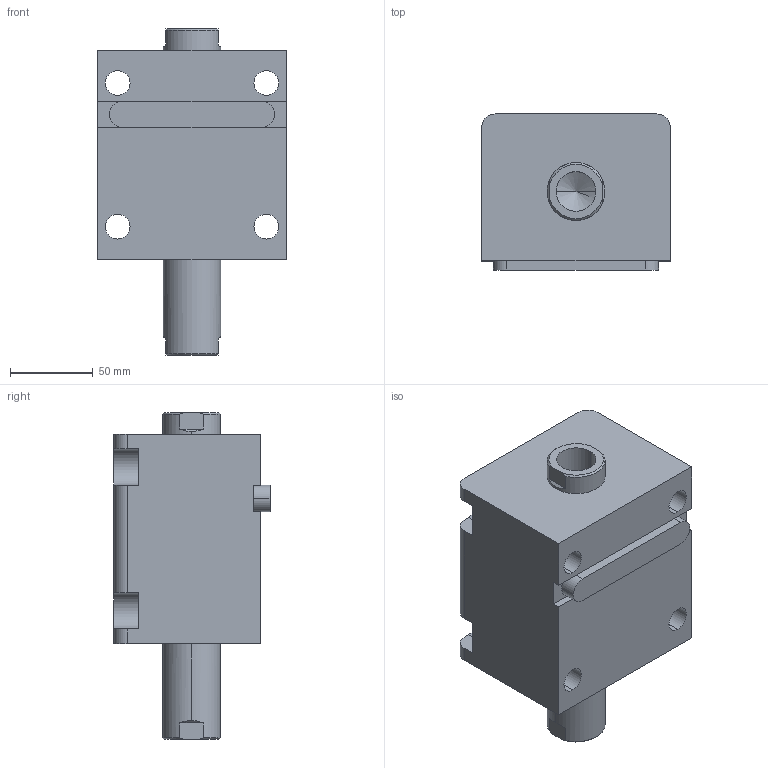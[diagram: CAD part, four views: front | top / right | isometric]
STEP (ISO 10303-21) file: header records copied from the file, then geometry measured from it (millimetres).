
FILE_DESCRIPTION (( 'STEP AP203' ), '1' );
FILE_NAME ('HTB-LW63-45N.STEP', '2019-10-09T08:26:23', ( '微软用户' ), ( '微软中国' ), 'SwSTEP 2.0', 'SolidWorks 2012', '' );
FILE_SCHEMA (( 'CONFIG_CONTROL_DESIGN' ));
Length unit declared in the file: millimetre
Products named in the file (4): HTB-LW63-45N; HTB-LA63-瑩; HTB-LW63-45N活塞杆; HTB-LW63-45掛极
Assembly tree (3 placements, depth 2):
  HTB-LW63-45N
    HTB-LW63-45掛极
    HTB-LW63-45N活塞杆
    HTB-LA63-瑩
Bounding box: 114 x 94.5 x 198 mm (x, y, z)
Volume: 1145341.2 mm3; surface area: 150191.8 mm2
Topology: 3 solids, 3 shells, 101 faces, 253 edges, 164 vertices
Faces by surface type: plane 44, cylinder 41, cone 12, torus 4
Entity records: 3467 total; most frequent: CARTESIAN_POINT 576, DIRECTION 549, ORIENTED_EDGE 498, EDGE_CURVE 249, AXIS2_PLACEMENT_3D 209, VERTEX_POINT 164, VECTOR 131, LINE 131
